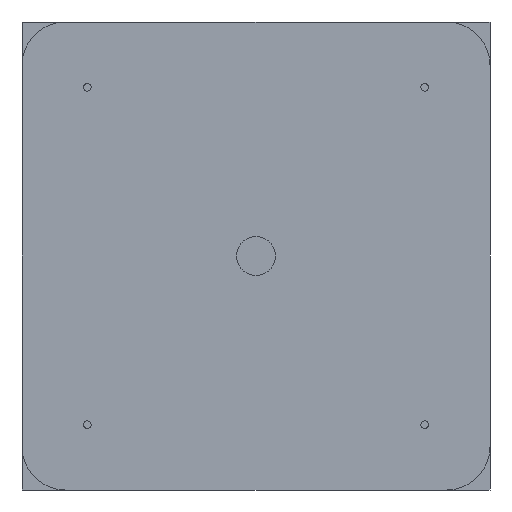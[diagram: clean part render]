
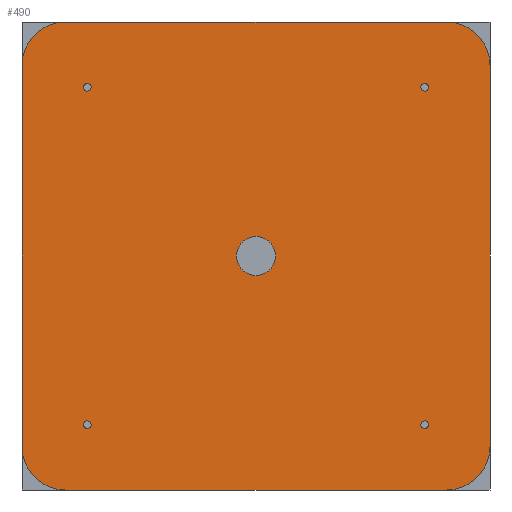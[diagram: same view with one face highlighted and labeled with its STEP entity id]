
A CAD part, left-side view. The second image highlights one B-rep face of the part: STEP entity #490.
In plain terms, the highlighted planar face has unit normal (-1, 0, 0).
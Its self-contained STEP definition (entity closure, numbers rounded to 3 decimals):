
#309=CARTESIAN_POINT('Vertex',(0.,31.75,30.)) ;
#316=CARTESIAN_POINT('Vertex',(0.,28.25,30.)) ;
#319=CARTESIAN_POINT('Axis2P3D Location',(0.,30.,30.)) ;
#331=CARTESIAN_POINT('Axis2P3D Location',(0.,30.,30.)) ;
#343=CARTESIAN_POINT('Axis2P3D Location',(0.,0.,0.)) ;
#348=CARTESIAN_POINT('Axis2P3D Location',(0.,20.,20.)) ;
#352=CARTESIAN_POINT('Vertex',(0.,0.,20.)) ;
#354=CARTESIAN_POINT('Vertex',(0.,20.,0.)) ;
#357=CARTESIAN_POINT('Line Origine',(0.,0.,107.5)) ;
#361=CARTESIAN_POINT('Vertex',(0.,0.,195.)) ;
#364=CARTESIAN_POINT('Axis2P3D Location',(0.,20.,195.)) ;
#368=CARTESIAN_POINT('Vertex',(0.,20.,215.)) ;
#371=CARTESIAN_POINT('Line Origine',(0.,107.5,215.)) ;
#375=CARTESIAN_POINT('Vertex',(0.,195.,215.)) ;
#378=CARTESIAN_POINT('Axis2P3D Location',(0.,195.,195.)) ;
#382=CARTESIAN_POINT('Vertex',(0.,215.,195.)) ;
#385=CARTESIAN_POINT('Line Origine',(0.,215.,107.5)) ;
#389=CARTESIAN_POINT('Vertex',(0.,215.,20.)) ;
#392=CARTESIAN_POINT('Axis2P3D Location',(0.,195.,20.)) ;
#396=CARTESIAN_POINT('Vertex',(0.,195.,0.)) ;
#399=CARTESIAN_POINT('Line Origine',(0.,107.5,0.)) ;
#414=CARTESIAN_POINT('Axis2P3D Location',(0.,107.5,107.5)) ;
#418=CARTESIAN_POINT('Vertex',(0.,98.5,107.5)) ;
#420=CARTESIAN_POINT('Vertex',(0.,116.5,107.5)) ;
#423=CARTESIAN_POINT('Axis2P3D Location',(0.,107.5,107.5)) ;
#432=CARTESIAN_POINT('Axis2P3D Location',(0.,185.,185.)) ;
#436=CARTESIAN_POINT('Vertex',(0.,183.25,185.)) ;
#438=CARTESIAN_POINT('Vertex',(0.,186.75,185.)) ;
#441=CARTESIAN_POINT('Axis2P3D Location',(0.,185.,185.)) ;
#450=CARTESIAN_POINT('Axis2P3D Location',(0.,30.,185.)) ;
#454=CARTESIAN_POINT('Vertex',(0.,28.25,185.)) ;
#456=CARTESIAN_POINT('Vertex',(0.,31.75,185.)) ;
#459=CARTESIAN_POINT('Axis2P3D Location',(0.,30.,185.)) ;
#472=CARTESIAN_POINT('Axis2P3D Location',(0.,185.,30.)) ;
#476=CARTESIAN_POINT('Vertex',(0.,183.25,30.)) ;
#478=CARTESIAN_POINT('Vertex',(0.,186.75,30.)) ;
#481=CARTESIAN_POINT('Axis2P3D Location',(0.,185.,30.)) ;
#320=DIRECTION('Axis2P3D Direction',(1.,0.,0.)) ;
#332=DIRECTION('Axis2P3D Direction',(1.,0.,0.)) ;
#344=DIRECTION('Axis2P3D Direction',(1.,0.,0.)) ;
#345=DIRECTION('Axis2P3D XDirection',(0.,1.,0.)) ;
#349=DIRECTION('Axis2P3D Direction',(1.,0.,0.)) ;
#358=DIRECTION('Vector Direction',(0.,0.,-1.)) ;
#365=DIRECTION('Axis2P3D Direction',(1.,0.,0.)) ;
#372=DIRECTION('Vector Direction',(0.,-1.,0.)) ;
#379=DIRECTION('Axis2P3D Direction',(1.,0.,0.)) ;
#386=DIRECTION('Vector Direction',(0.,0.,1.)) ;
#393=DIRECTION('Axis2P3D Direction',(1.,0.,0.)) ;
#400=DIRECTION('Vector Direction',(0.,1.,0.)) ;
#415=DIRECTION('Axis2P3D Direction',(1.,0.,0.)) ;
#424=DIRECTION('Axis2P3D Direction',(1.,0.,0.)) ;
#433=DIRECTION('Axis2P3D Direction',(1.,0.,0.)) ;
#442=DIRECTION('Axis2P3D Direction',(1.,0.,0.)) ;
#451=DIRECTION('Axis2P3D Direction',(1.,0.,0.)) ;
#460=DIRECTION('Axis2P3D Direction',(1.,0.,0.)) ;
#473=DIRECTION('Axis2P3D Direction',(1.,0.,0.)) ;
#482=DIRECTION('Axis2P3D Direction',(1.,0.,0.)) ;
#321=AXIS2_PLACEMENT_3D('Circle Axis2P3D',#319,#320,$) ;
#333=AXIS2_PLACEMENT_3D('Circle Axis2P3D',#331,#332,$) ;
#346=AXIS2_PLACEMENT_3D('Plane Axis2P3D',#343,#344,#345) ;
#350=AXIS2_PLACEMENT_3D('Circle Axis2P3D',#348,#349,$) ;
#366=AXIS2_PLACEMENT_3D('Circle Axis2P3D',#364,#365,$) ;
#380=AXIS2_PLACEMENT_3D('Circle Axis2P3D',#378,#379,$) ;
#394=AXIS2_PLACEMENT_3D('Circle Axis2P3D',#392,#393,$) ;
#416=AXIS2_PLACEMENT_3D('Circle Axis2P3D',#414,#415,$) ;
#425=AXIS2_PLACEMENT_3D('Circle Axis2P3D',#423,#424,$) ;
#434=AXIS2_PLACEMENT_3D('Circle Axis2P3D',#432,#433,$) ;
#443=AXIS2_PLACEMENT_3D('Circle Axis2P3D',#441,#442,$) ;
#452=AXIS2_PLACEMENT_3D('Circle Axis2P3D',#450,#451,$) ;
#461=AXIS2_PLACEMENT_3D('Circle Axis2P3D',#459,#460,$) ;
#474=AXIS2_PLACEMENT_3D('Circle Axis2P3D',#472,#473,$) ;
#483=AXIS2_PLACEMENT_3D('Circle Axis2P3D',#481,#482,$) ;
#405=ORIENTED_EDGE('',*,*,#356,.F.) ;
#406=ORIENTED_EDGE('',*,*,#363,.F.) ;
#407=ORIENTED_EDGE('',*,*,#370,.F.) ;
#408=ORIENTED_EDGE('',*,*,#377,.F.) ;
#409=ORIENTED_EDGE('',*,*,#384,.F.) ;
#410=ORIENTED_EDGE('',*,*,#391,.F.) ;
#411=ORIENTED_EDGE('',*,*,#398,.F.) ;
#412=ORIENTED_EDGE('',*,*,#403,.F.) ;
#429=ORIENTED_EDGE('',*,*,#422,.T.) ;
#430=ORIENTED_EDGE('',*,*,#427,.T.) ;
#447=ORIENTED_EDGE('',*,*,#440,.T.) ;
#448=ORIENTED_EDGE('',*,*,#445,.T.) ;
#465=ORIENTED_EDGE('',*,*,#458,.T.) ;
#466=ORIENTED_EDGE('',*,*,#463,.T.) ;
#469=ORIENTED_EDGE('',*,*,#335,.T.) ;
#470=ORIENTED_EDGE('',*,*,#323,.T.) ;
#487=ORIENTED_EDGE('',*,*,#480,.T.) ;
#488=ORIENTED_EDGE('',*,*,#485,.T.) ;
#431=FACE_BOUND('',#428,.T.) ;
#449=FACE_BOUND('',#446,.T.) ;
#467=FACE_BOUND('',#464,.T.) ;
#471=FACE_BOUND('',#468,.T.) ;
#489=FACE_BOUND('',#486,.T.) ;
#359=VECTOR('Line Direction',#358,1.) ;
#373=VECTOR('Line Direction',#372,1.) ;
#387=VECTOR('Line Direction',#386,1.) ;
#401=VECTOR('Line Direction',#400,1.) ;
#490=ADVANCED_FACE('\X2\96F64EF651E04F554F53\X0\',(#413,#431,#449,#467,#471,#489),#347,.F.) ;
#322=CIRCLE('generated circle',#321,1.75) ;
#334=CIRCLE('generated circle',#333,1.75) ;
#351=CIRCLE('generated circle',#350,20.) ;
#367=CIRCLE('generated circle',#366,20.) ;
#381=CIRCLE('generated circle',#380,20.) ;
#395=CIRCLE('generated circle',#394,20.) ;
#417=CIRCLE('generated circle',#416,9.) ;
#426=CIRCLE('generated circle',#425,9.) ;
#435=CIRCLE('generated circle',#434,1.75) ;
#444=CIRCLE('generated circle',#443,1.75) ;
#453=CIRCLE('generated circle',#452,1.75) ;
#462=CIRCLE('generated circle',#461,1.75) ;
#475=CIRCLE('generated circle',#474,1.75) ;
#484=CIRCLE('generated circle',#483,1.75) ;
#323=EDGE_CURVE('',#310,#317,#322,.T.) ;
#335=EDGE_CURVE('',#317,#310,#334,.T.) ;
#356=EDGE_CURVE('',#353,#355,#351,.T.) ;
#363=EDGE_CURVE('',#362,#353,#360,.T.) ;
#370=EDGE_CURVE('',#369,#362,#367,.T.) ;
#377=EDGE_CURVE('',#376,#369,#374,.T.) ;
#384=EDGE_CURVE('',#383,#376,#381,.T.) ;
#391=EDGE_CURVE('',#390,#383,#388,.T.) ;
#398=EDGE_CURVE('',#397,#390,#395,.T.) ;
#403=EDGE_CURVE('',#355,#397,#402,.T.) ;
#422=EDGE_CURVE('',#419,#421,#417,.T.) ;
#427=EDGE_CURVE('',#421,#419,#426,.T.) ;
#440=EDGE_CURVE('',#437,#439,#435,.T.) ;
#445=EDGE_CURVE('',#439,#437,#444,.T.) ;
#458=EDGE_CURVE('',#455,#457,#453,.T.) ;
#463=EDGE_CURVE('',#457,#455,#462,.T.) ;
#480=EDGE_CURVE('',#477,#479,#475,.T.) ;
#485=EDGE_CURVE('',#479,#477,#484,.T.) ;
#404=EDGE_LOOP('',(#405,#406,#407,#408,#409,#410,#411,#412)) ;
#428=EDGE_LOOP('',(#429,#430)) ;
#446=EDGE_LOOP('',(#447,#448)) ;
#464=EDGE_LOOP('',(#465,#466)) ;
#468=EDGE_LOOP('',(#469,#470)) ;
#486=EDGE_LOOP('',(#487,#488)) ;
#413=FACE_OUTER_BOUND('',#404,.T.) ;
#360=LINE('Line',#357,#359) ;
#374=LINE('Line',#371,#373) ;
#388=LINE('Line',#385,#387) ;
#402=LINE('Line',#399,#401) ;
#347=PLANE('Plane',#346) ;
#310=VERTEX_POINT('',#309) ;
#317=VERTEX_POINT('',#316) ;
#353=VERTEX_POINT('',#352) ;
#355=VERTEX_POINT('',#354) ;
#362=VERTEX_POINT('',#361) ;
#369=VERTEX_POINT('',#368) ;
#376=VERTEX_POINT('',#375) ;
#383=VERTEX_POINT('',#382) ;
#390=VERTEX_POINT('',#389) ;
#397=VERTEX_POINT('',#396) ;
#419=VERTEX_POINT('',#418) ;
#421=VERTEX_POINT('',#420) ;
#437=VERTEX_POINT('',#436) ;
#439=VERTEX_POINT('',#438) ;
#455=VERTEX_POINT('',#454) ;
#457=VERTEX_POINT('',#456) ;
#477=VERTEX_POINT('',#476) ;
#479=VERTEX_POINT('',#478) ;
